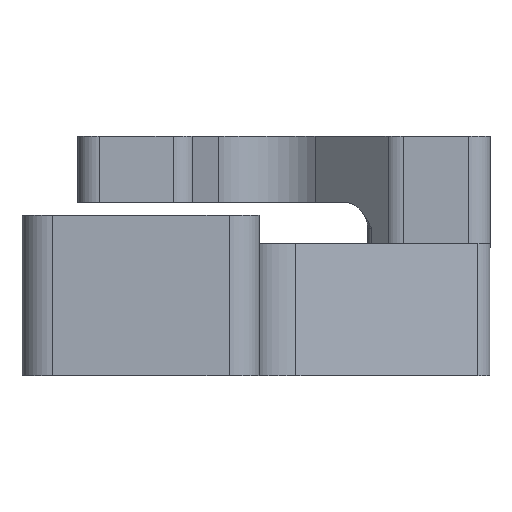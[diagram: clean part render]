
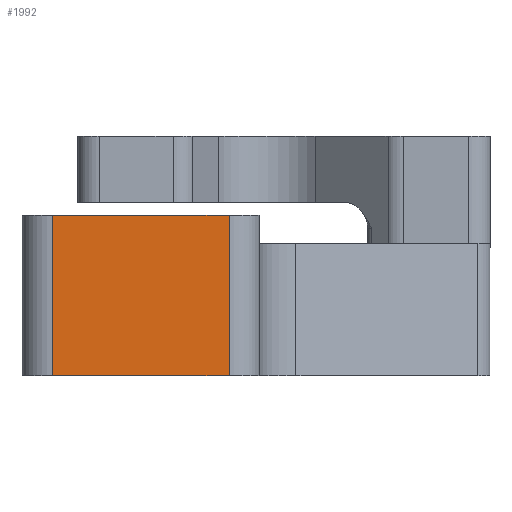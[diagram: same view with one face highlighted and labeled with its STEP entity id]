
A CAD part, left-side view. The second image highlights one B-rep face of the part: STEP entity #1992.
In plain terms, the highlighted planar face has unit normal (-1, 0, 0).
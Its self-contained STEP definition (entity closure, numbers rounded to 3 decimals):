
#45=PLANE('',#2178);
#153=LINE('',#3229,#323);
#154=LINE('',#3233,#324);
#155=LINE('',#3235,#325);
#156=LINE('',#3237,#326);
#323=VECTOR('',#2590,1000.);
#324=VECTOR('',#2595,1000.);
#325=VECTOR('',#2596,1000.);
#326=VECTOR('',#2597,1000.);
#663=ORIENTED_EDGE('',*,*,#1134,.F.);
#664=ORIENTED_EDGE('',*,*,#1136,.F.);
#665=ORIENTED_EDGE('',*,*,#1137,.T.);
#666=ORIENTED_EDGE('',*,*,#1138,.F.);
#1134=EDGE_CURVE('',#1386,#1387,#153,.T.);
#1136=EDGE_CURVE('',#1388,#1386,#154,.T.);
#1137=EDGE_CURVE('',#1388,#1389,#155,.T.);
#1138=EDGE_CURVE('',#1387,#1389,#156,.T.);
#1386=VERTEX_POINT('',#3228);
#1387=VERTEX_POINT('',#3230);
#1388=VERTEX_POINT('',#3234);
#1389=VERTEX_POINT('',#3236);
#1665=EDGE_LOOP('',(#663,#664,#665,#666));
#1808=FACE_BOUND('',#1665,.T.);
#1992=ADVANCED_FACE('',(#1808),#45,.T.);
#2178=AXIS2_PLACEMENT_3D('',#3232,#2593,#2594);
#2590=DIRECTION('',(0.,0.,1.));
#2593=DIRECTION('',(-1.,0.,0.));
#2594=DIRECTION('',(0.,-1.,0.));
#2595=DIRECTION('',(0.,1.,0.));
#2596=DIRECTION('',(0.,0.,1.));
#2597=DIRECTION('',(0.,-1.,0.));
#3228=CARTESIAN_POINT('',(26.15,104.492,-5.));
#3229=CARTESIAN_POINT('',(26.15,104.492,-333.41));
#3230=CARTESIAN_POINT('',(26.15,104.492,31.9));
#3232=CARTESIAN_POINT('',(26.15,104.492,-333.41));
#3233=CARTESIAN_POINT('',(26.15,104.492,-5.));
#3234=CARTESIAN_POINT('',(26.15,63.852,-5.));
#3235=CARTESIAN_POINT('',(26.15,63.852,-333.41));
#3236=CARTESIAN_POINT('',(26.15,63.852,31.9));
#3237=CARTESIAN_POINT('',(26.15,104.492,31.9));
